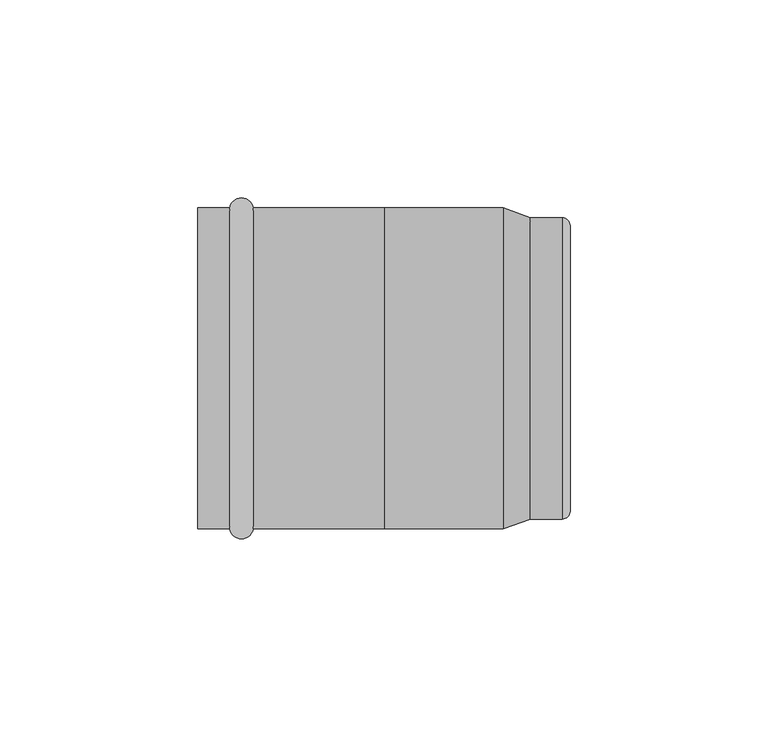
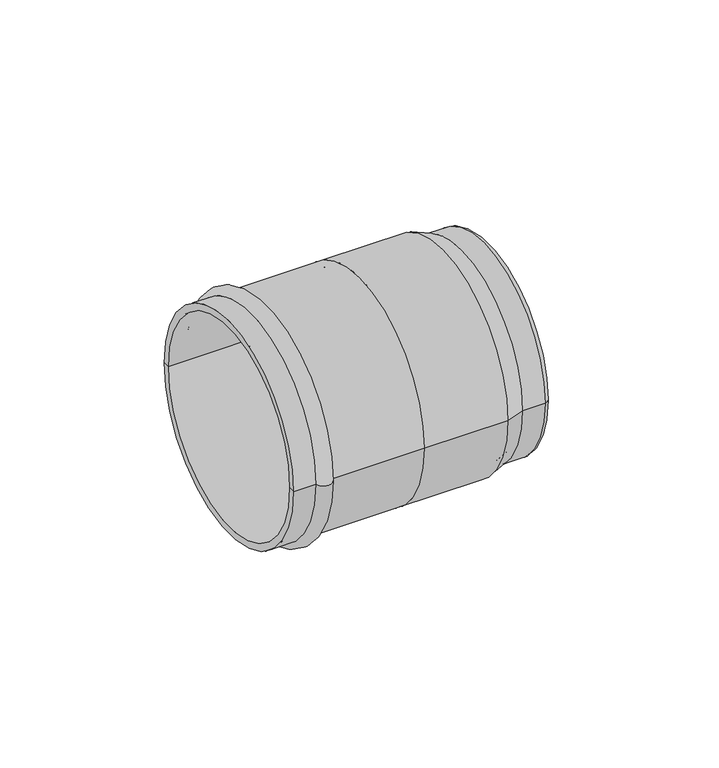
"""IFC4 building model written with IfcOpenShell, lengths in millimetres: pipe fitting geometry, VALTEC_VTi.961.I_Заглушка_нержавеющая : VTi.961.I."""

from ifc_helpers import new_model, si_unit, point, frame, origin, place, context, project, spatial, polyline, circle_curve, ellipse_curve, trimmed, source, transform, mapped, element, save
from ifc_brep_helpers import plane_surface, cylinder_surface, revolved_surface, advanced_brep


def pipe_fitting_507a7880(model_context):
    return source(origin(), model_context, "Body", "AdvancedBrep", [
        advanced_brep(
        [(8.0419601, -40.55, 0.0), (8.0419601, 40.55, 0.0), (13.9580399, 40.55, 0.0), (13.9580399, -40.55, 0.0), (0.0, -40.55, 0.0), (0.0, 40.55, 0.0), (0.0, -38.05, 0.0), (0.0, 38.05, 0.0), (47.0, -38.05, 0.0), (47.0, 38.05, 0.0), (47.0, -40.55, 0.0), (47.0, 40.55, 0.0)],
        [
            (0, 1, circle_curve(frame((8.0419601, 0.0, 0.0), z_axis=(1.0, 0.0, 0.0), x_axis=(0.0, 1.0, 0.0)), 40.55)),
            (1, 2, circle_curve(frame((11.0, 40.05, 0.0), z_axis=(0.0, 0.0, -1.0), x_axis=(1.0, 0.0, 0.0)), 3.0)),
            (2, 3, circle_curve(frame((13.9580399, 0.0, 0.0), z_axis=(-1.0, 0.0, 0.0), x_axis=(0.0, 1.0, 0.0)), 40.55)),
            (3, 0, circle_curve(frame((11.0, -40.05, 0.0), z_axis=(0.0, 0.0, -1.0), x_axis=(1.0, 0.0, 0.0)), 3.0)),
            (1, 0, circle_curve(frame((8.0419601, 0.0, 0.0), z_axis=(1.0, 0.0, 0.0), x_axis=(0.0, 1.0, 0.0)), 40.55)),
            (3, 2, circle_curve(frame((13.9580399, 0.0, 0.0), z_axis=(-1.0, 0.0, 0.0), x_axis=(0.0, 1.0, 0.0)), 40.55)),
            (4, 5, circle_curve(frame((0.0, 0.0, 0.0), z_axis=(1.0, 0.0, 0.0), x_axis=(0.0, 1.0, 0.0)), 40.55)),
            (5, 1),
            (0, 4),
            (5, 4, circle_curve(frame((0.0, 0.0, 0.0), z_axis=(1.0, 0.0, 0.0), x_axis=(0.0, 1.0, 0.0)), 40.55)),
            (6, 7, circle_curve(frame((0.0, 0.0, 0.0), z_axis=(1.0, 0.0, 0.0), x_axis=(0.0, 1.0, 0.0)), 38.05)),
            (7, 5),
            (4, 6),
            (7, 6, circle_curve(frame((0.0, 0.0, 0.0), z_axis=(1.0, 0.0, 0.0), x_axis=(0.0, 1.0, 0.0)), 38.05)),
            (8, 9, circle_curve(frame((47.0, 0.0, 0.0), z_axis=(1.0, 0.0, 0.0), x_axis=(0.0, 1.0, 0.0)), 38.05)),
            (9, 7),
            (6, 8),
            (9, 8, circle_curve(frame((47.0, 0.0, 0.0), z_axis=(1.0, 0.0, 0.0), x_axis=(0.0, 1.0, 0.0)), 38.05)),
            (10, 11, circle_curve(frame((47.0, 0.0, 0.0), z_axis=(1.0, 0.0, 0.0), x_axis=(0.0, 1.0, 0.0)), 40.55)),
            (11, 9),
            (8, 10),
            (11, 10, circle_curve(frame((47.0, 0.0, 0.0), z_axis=(1.0, 0.0, 0.0), x_axis=(0.0, 1.0, 0.0)), 40.55)),
            (2, 11),
            (10, 3),
        ],
        [
            revolved_surface(trimmed(ellipse_curve(frame((11.0, 40.05, 0.0), z_axis=(0.0, 0.0, 1.0), x_axis=(1.0, 0.0, 0.0)), 3.0, 3.0), [point((13.9580399, 40.55, 0.0))], [point((8.0419601, 40.55, 0.0))], True, "CARTESIAN"), (-3.5364426, 0.0, 0.0), (-1.0, 0.0, 0.0)),
            cylinder_surface(frame((-3.5364426, 0.0, 0.0), z_axis=(-1.0, 0.0, 0.0), x_axis=(0.0, 1.0, 0.0)), 40.55),
            plane_surface(frame((0.0, 0.0, 0.0), z_axis=(-1.0, 0.0, 0.0), x_axis=(0.0, 1.0, 0.0))),
            revolved_surface(polyline([(0.0, 38.05, 0.0), (47.0, 38.05, 0.0)]), (-3.5364426, 0.0, 0.0), (-1.0, 0.0, 0.0)),
            plane_surface(frame((47.0, 0.0, 0.0), z_axis=(1.0, 0.0, 0.0), x_axis=(0.0, 1.0, 0.0))),
        ],
        [
            (0, [[1, 2, 3, 4]]),
            (0, [[5, -4, 6, -2]]),
            (1, [[7, 8, -1, 9]]),
            (1, [[10, -9, -5, -8]]),
            (2, [[11, 12, -7, 13]]),
            (2, [[14, -13, -10, -12]]),
            (3, [[15, 16, -11, 17]]),
            (3, [[18, -17, -14, -16]]),
            (4, [[19, 20, -15, 21]]),
            (4, [[22, -21, -18, -20]]),
            (1, [[-3, 23, -19, 24]]),
            (1, [[-6, -24, -22, -23]]),
        ],
    ),
        advanced_brep(
        [(47.0, -40.55, 0.0), (47.0, 40.55, 0.0), (77.1313065, 40.55, 0.0), (77.1313065, -40.55, 0.0), (77.1313065, -38.05, 0.0), (77.1313065, 38.05, 0.0), (47.0, 38.05, 0.0), (47.0, -38.05, 0.0), (91.5, -35.55, 0.0), (91.5, 35.55, 0.0), (84.0, 35.55, 0.0), (84.0, -35.55, 0.0), (91.5, 0.0, 0.0), (94.0, -36.05, 0.0), (94.0, 36.05, 0.0), (94.0, 0.0, 0.0), (84.0, -38.05, 0.0), (84.0, 38.05, 0.0), (92.0, 38.05, 0.0), (92.0, -38.05, 0.0)],
        [
            (0, 1, circle_curve(frame((47.0, 0.0, 0.0), z_axis=(1.0, 0.0, 0.0), x_axis=(0.0, 1.0, 0.0)), 40.55)),
            (1, 2),
            (2, 3, circle_curve(frame((77.1313065, 0.0, 0.0), z_axis=(-1.0, 0.0, 0.0), x_axis=(0.0, 1.0, 0.0)), 40.55)),
            (3, 0),
            (1, 0, circle_curve(frame((47.0, 0.0, 0.0), z_axis=(1.0, 0.0, 0.0), x_axis=(0.0, 1.0, 0.0)), 40.55)),
            (3, 2, circle_curve(frame((77.1313065, 0.0, 0.0), z_axis=(-1.0, 0.0, 0.0), x_axis=(0.0, 1.0, 0.0)), 40.55)),
            (4, 5, circle_curve(frame((77.1313065, 0.0, 0.0), z_axis=(1.0, 0.0, 0.0), x_axis=(0.0, 1.0, 0.0)), 38.05)),
            (5, 6),
            (6, 7, circle_curve(frame((47.0, 0.0, 0.0), z_axis=(-1.0, 0.0, 0.0), x_axis=(0.0, 1.0, 0.0)), 38.05)),
            (7, 4),
            (5, 4, circle_curve(frame((77.1313065, 0.0, 0.0), z_axis=(1.0, 0.0, 0.0), x_axis=(0.0, 1.0, 0.0)), 38.05)),
            (7, 6, circle_curve(frame((47.0, 0.0, 0.0), z_axis=(-1.0, 0.0, 0.0), x_axis=(0.0, 1.0, 0.0)), 38.05)),
            (6, 1),
            (0, 7),
            (8, 9, circle_curve(frame((91.5, 0.0, 0.0), z_axis=(1.0, 0.0, 0.0), x_axis=(0.0, 1.0, 0.0)), 35.55)),
            (9, 10),
            (10, 11, circle_curve(frame((84.0, 0.0, 0.0), z_axis=(-1.0, 0.0, 0.0), x_axis=(0.0, 1.0, 0.0)), 35.55)),
            (11, 8),
            (9, 8, circle_curve(frame((91.5, 0.0, 0.0), z_axis=(1.0, 0.0, 0.0), x_axis=(0.0, 1.0, 0.0)), 35.55)),
            (11, 10, circle_curve(frame((84.0, 0.0, 0.0), z_axis=(-1.0, 0.0, 0.0), x_axis=(0.0, 1.0, 0.0)), 35.55)),
            (12, 9),
            (8, 12),
            (13, 14, circle_curve(frame((94.0, 0.0, 0.0), z_axis=(1.0, 0.0, 0.0), x_axis=(0.0, 1.0, 0.0)), 36.05)),
            (14, 15),
            (15, 13),
            (14, 13, circle_curve(frame((94.0, 0.0, 0.0), z_axis=(1.0, 0.0, 0.0), x_axis=(0.0, 1.0, 0.0)), 36.05)),
            (16, 17, circle_curve(frame((84.0, 0.0, 0.0), z_axis=(1.0, 0.0, 0.0), x_axis=(0.0, 1.0, 0.0)), 38.05)),
            (17, 18),
            (18, 19, circle_curve(frame((92.0, 0.0, 0.0), z_axis=(-1.0, 0.0, 0.0), x_axis=(0.0, 1.0, 0.0)), 38.05)),
            (19, 16),
            (17, 16, circle_curve(frame((84.0, 0.0, 0.0), z_axis=(1.0, 0.0, 0.0), x_axis=(0.0, 1.0, 0.0)), 38.05)),
            (19, 18, circle_curve(frame((92.0, 0.0, 0.0), z_axis=(-1.0, 0.0, 0.0), x_axis=(0.0, 1.0, 0.0)), 38.05)),
            (2, 17),
            (16, 3),
            (10, 5),
            (4, 11),
            (18, 14, circle_curve(frame((92.0, 36.05, 0.0), z_axis=(0.0, 0.0, -1.0), x_axis=(1.0, 0.0, 0.0)), 2.0)),
            (13, 19, circle_curve(frame((92.0, -36.05, 0.0), z_axis=(0.0, 0.0, -1.0), x_axis=(1.0, 0.0, 0.0)), 2.0)),
        ],
        [
            cylinder_surface(frame((-40.0167378, 0.0, 0.0), z_axis=(-1.0, 0.0, 0.0), x_axis=(0.0, 1.0, 0.0)), 40.55),
            revolved_surface(polyline([(47.0, 38.05, 0.0), (77.1313065, 38.05, 0.0)]), (-40.0167378, 0.0, 0.0), (-1.0, 0.0, 0.0)),
            plane_surface(frame((47.0, 0.0, 0.0), z_axis=(-1.0, 0.0, 0.0), x_axis=(0.0, 1.0, 0.0))),
            revolved_surface(polyline([(84.0, 35.55, 0.0), (91.49999999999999, 35.55, 0.0)]), (-40.0167378, 0.0, 0.0), (-1.0, 0.0, 0.0)),
            plane_surface(frame((91.5, 0.0, 0.0), z_axis=(-1.0, 0.0, 0.0), x_axis=(0.0, 1.0, 0.0))),
            plane_surface(frame((94.0, 0.0, 0.0), z_axis=(1.0, 0.0, 0.0), x_axis=(0.0, 1.0, 0.0))),
            cylinder_surface(frame((-40.0167378, 0.0, 0.0), z_axis=(-1.0, 0.0, 0.0), x_axis=(0.0, 1.0, 0.0)), 38.05),
            revolved_surface(polyline([(84.0, 38.05, 0.0), (77.1313065, 40.55, 0.0)]), (-40.0167378, 0.0, 0.0), (-1.0, 0.0, 0.0)),
            revolved_surface(polyline([(77.1313065, 38.05, 0.0), (84.0, 35.55, 0.0)]), (-40.0167378, 0.0, 0.0), (-1.0, 0.0, 0.0)),
            revolved_surface(trimmed(ellipse_curve(frame((92.0, 36.05, 0.0), z_axis=(0.0, 0.0, 1.0), x_axis=(1.0, 0.0, 0.0)), 2.0, 2.0), [point((94.0, 36.05, 0.0))], [point((92.0, 38.05, 0.0))], True, "CARTESIAN"), (-40.0167378, 0.0, 0.0), (-1.0, 0.0, 0.0)),
        ],
        [
            (0, [[1, 2, 3, 4]]),
            (0, [[5, -4, 6, -2]]),
            (1, [[7, 8, 9, 10]]),
            (1, [[11, -10, 12, -8]]),
            (2, [[-9, 13, -1, 14]]),
            (2, [[-12, -14, -5, -13]]),
            (3, [[15, 16, 17, 18]]),
            (3, [[19, -18, 20, -16]]),
            (4, [[21, -15, 22]]),
            (4, [[-22, -19, -21]]),
            (5, [[23, 24, 25]]),
            (5, [[26, -25, -24]]),
            (6, [[27, 28, 29, 30]]),
            (6, [[31, -30, 32, -28]]),
            (7, [[-3, 33, -27, 34]]),
            (7, [[-6, -34, -31, -33]]),
            (8, [[-17, 35, -7, 36]]),
            (8, [[-20, -36, -11, -35]]),
            (9, [[-29, 37, -23, 38]]),
            (9, [[-32, -38, -26, -37]]),
        ],
    ),
    ])


if __name__ == "__main__":
    model = new_model("IFC4")
    model_context = context("Model", 3, world=origin())
    ifc_project = project(units=[si_unit("LENGTHUNIT", "METRE", prefix="MILLI")], contexts=[model_context])
    site = spatial("IfcSite", under=ifc_project)
    building = spatial("IfcBuilding", under=site)
    placement = place(None, origin())
    pipe_fitting_shape = pipe_fitting_507a7880(model_context)
    element("IfcPipeFitting", 1, ObjectType="VALTEC_VTi.961.I_Заглушка_нержавеющая : VTi.961.I", at=placement, inside=building, context=model_context, shape_type="MappedRepresentation", body=[
        mapped(pipe_fitting_shape, transform((0.0, 0.0, 0.0), x_axis=(1.0, 0.0, 0.0), y_axis=(0.0, 1.0, 0.0), z_axis=(0.0, 0.0, 1.0))),
    ])
    save(model, "model.ifc")
